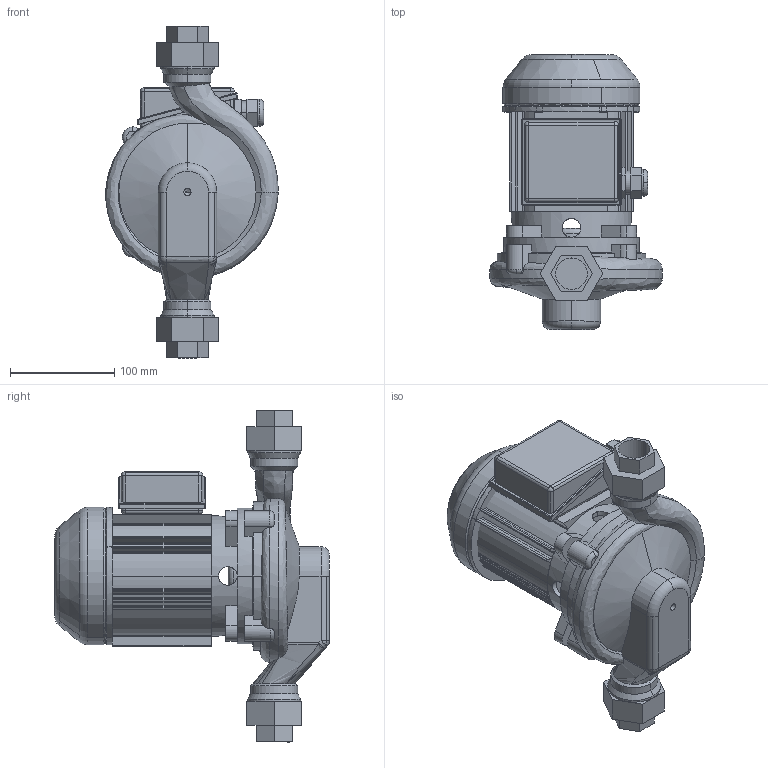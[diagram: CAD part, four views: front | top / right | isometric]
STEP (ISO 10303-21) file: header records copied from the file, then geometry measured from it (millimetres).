
FILE_DESCRIPTION(('STEP AP214'),'1');
FILE_NAME('export.stp','2018-05-28T13:30:19',(' '),(' '),'Spatial InterOp 3D',' ',' ');
FILE_SCHEMA(('AUTOMOTIVE_DESIGN { 1 0 10303 214 1 1 1 1 }'));
Length unit declared in the file: millimetre
Products named in the file (8): V_MOP741; RU_OP_741; TSUOJA_OP_7; KYTKOTELO_OP7_OKN8; W_AE262250; V_EKN12OP7; V_TLAEAP202526; V_PPAE26
Assembly tree (7 placements, depth 3):
  W_AE262250
    V_MOP741
      RU_OP_741
      TSUOJA_OP_7
      KYTKOTELO_OP7_OKN8
    V_EKN12OP7
    V_TLAEAP202526
    V_PPAE26
Bounding box: 165.29 x 263.25 x 318 mm (x, y, z)
Volume: 2361232.1 mm3; surface area: 372026.7 mm2
Topology: 6 solids, 7 shells, 506 faces, 1334 edges, 851 vertices
Faces by surface type: cylinder 257, plane 162, bspline 30, torus 20, sphere 19, cone 18
Entity records: 28802 total; most frequent: CARTESIAN_POINT 7411, DIRECTION 2771, ORIENTED_EDGE 2640, STYLED_ITEM 1404, PRESENTATION_STYLE_ASSIGNMENT 1404, COLOUR_RGB 1404, EDGE_CURVE 1320, AXIS2_PLACEMENT_3D 1097
